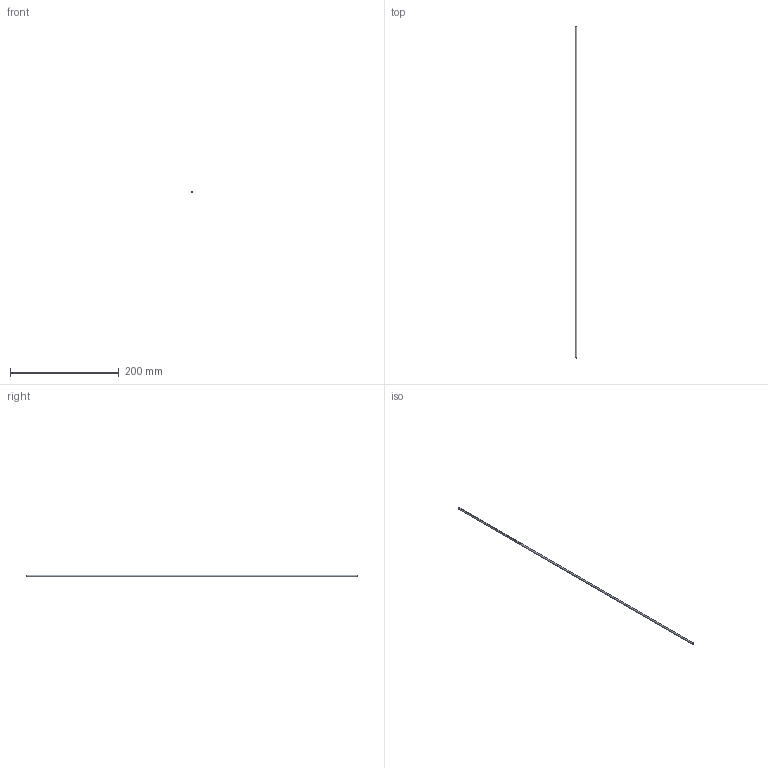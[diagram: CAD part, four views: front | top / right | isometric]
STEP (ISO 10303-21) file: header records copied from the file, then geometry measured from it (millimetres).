
FILE_DESCRIPTION(/* description */ (''),/* implementation_level */ '2;1');
FILE_NAME(/* name */ 'C:/Users/drich/Desktop/125T-24 v2.step',/* time_stamp */ '2019-12-27T17:25:12-06:00',/* author */ (''),/* organization */ (''),/* preprocessor_version */ 'ST-DEVELOPER v18',/* originating_system */ 'Autodesk Translation Framework v8.12.0.6',/* authorisation */ '');
FILE_SCHEMA (('AUTOMOTIVE_DESIGN { 1 0 10303 214 3 1 1 }'));
Length unit declared in the file: inch
Products named in the file (1): 125T-24
Bounding box: 3.1 x 609.6 x 3.1 mm (x, y, z)
Volume: 3440.1 mm3; surface area: 8905.5 mm2
Topology: 1 solids, 1 shells, 6 faces, 14 edges, 10 vertices
Faces by surface type: cone 2, cylinder 2, plane 2
Full cylindrical faces by diameter (mm): 1.549 x1, 3.096 x1
Entity records: 230 total; most frequent: DIRECTION 38, CARTESIAN_POINT 31, ORIENTED_EDGE 28, AXIS2_PLACEMENT_3D 17, EDGE_CURVE 14, CIRCLE 10, VERTEX_POINT 10, EDGE_LOOP 8
